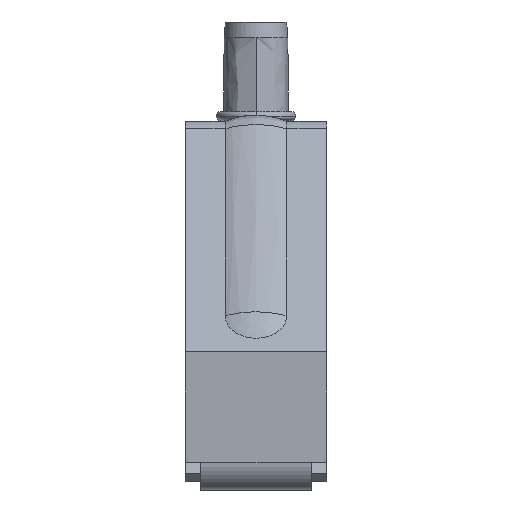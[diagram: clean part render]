
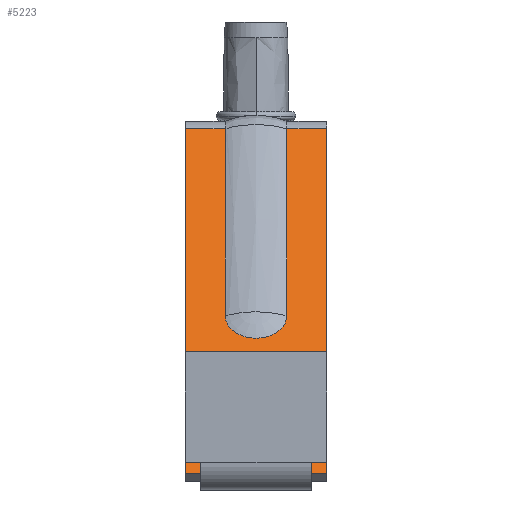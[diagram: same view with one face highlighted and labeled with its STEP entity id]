
A CAD part, left-side view. The second image highlights one B-rep face of the part: STEP entity #5223.
In plain terms, the highlighted planar face has unit normal (-0.719, 0, 0.695).
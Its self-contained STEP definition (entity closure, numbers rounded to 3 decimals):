
#2714=B_SPLINE_CURVE_WITH_KNOTS('',1,(#45325,#45326),.UNSPECIFIED.,.F.,
 .F.,(2,2),(-42.392,0.),.UNSPECIFIED.);
#2715=B_SPLINE_CURVE_WITH_KNOTS('',1,(#45327,#45328),.UNSPECIFIED.,.F.,
 .F.,(2,2),(0.,42.392),.UNSPECIFIED.);
#3327=PLANE('',#21495);
#5223=ADVANCED_FACE('',(#6504),#3327,.T.);
#6504=FACE_OUTER_BOUND('',#7789,.T.);
#7789=EDGE_LOOP('',(#14331,#14332,#14333,#14334,#14335,#14336,#14337,#14338,
#14339,#14340));
#14331=ORIENTED_EDGE('',*,*,#17789,.F.);
#14332=ORIENTED_EDGE('',*,*,#17791,.T.);
#14333=ORIENTED_EDGE('',*,*,#17930,.T.);
#14334=ORIENTED_EDGE('',*,*,#17896,.T.);
#14335=ORIENTED_EDGE('',*,*,#17924,.T.);
#14336=ORIENTED_EDGE('',*,*,#17792,.F.);
#14337=ORIENTED_EDGE('',*,*,#17834,.F.);
#14338=ORIENTED_EDGE('',*,*,#17782,.F.);
#14339=ORIENTED_EDGE('',*,*,#17780,.T.);
#14340=ORIENTED_EDGE('',*,*,#17783,.F.);
#17780=EDGE_CURVE('',#20568,#20567,#18457,.T.);
#17782=EDGE_CURVE('',#20568,#20564,#2714,.T.);
#17783=EDGE_CURVE('',#20563,#20567,#2715,.T.);
#17789=EDGE_CURVE('',#20574,#20563,#18463,.T.);
#17791=EDGE_CURVE('',#20574,#20576,#18465,.T.);
#17792=EDGE_CURVE('',#20575,#20577,#18466,.T.);
#17834=EDGE_CURVE('',#20564,#20575,#18508,.T.);
#17896=EDGE_CURVE('',#20648,#20642,#18554,.T.);
#17924=EDGE_CURVE('',#20642,#20577,#18572,.T.);
#17930=EDGE_CURVE('',#20576,#20648,#18574,.T.);
#18457=(
BOUNDED_CURVE()
B_SPLINE_CURVE(2,(#45316,#45317,#45318,#45319,#45320),.UNSPECIFIED.,.F.,
 .F.)
B_SPLINE_CURVE_WITH_KNOTS((3,2,3),(-15.708,-7.854,
0.),.UNSPECIFIED.)
CURVE()
GEOMETRIC_REPRESENTATION_ITEM()
RATIONAL_B_SPLINE_CURVE((1.,0.707,1.,0.707,1.))
REPRESENTATION_ITEM('')
);
#18463=(
BOUNDED_CURVE()
B_SPLINE_CURVE(1,(#45342,#45343),.UNSPECIFIED.,.F.,.F.)
B_SPLINE_CURVE_WITH_KNOTS((2,2),(0.,6.5),.UNSPECIFIED.)
CURVE()
GEOMETRIC_REPRESENTATION_ITEM()
RATIONAL_B_SPLINE_CURVE((1.,1.))
REPRESENTATION_ITEM('')
);
#18465=(
BOUNDED_CURVE()
B_SPLINE_CURVE(2,(#45347,#45348,#45349),.UNSPECIFIED.,.F.,.F.)
B_SPLINE_CURVE_WITH_KNOTS((3,3),(-499.242,-421.31),
 .UNSPECIFIED.)
CURVE()
GEOMETRIC_REPRESENTATION_ITEM()
RATIONAL_B_SPLINE_CURVE((1.,1.,1.))
REPRESENTATION_ITEM('')
);
#18466=(
BOUNDED_CURVE()
B_SPLINE_CURVE(2,(#45350,#45351,#45352),.UNSPECIFIED.,.F.,.F.)
B_SPLINE_CURVE_WITH_KNOTS((3,3),(-499.242,-421.31),
 .UNSPECIFIED.)
CURVE()
GEOMETRIC_REPRESENTATION_ITEM()
RATIONAL_B_SPLINE_CURVE((1.,1.,1.))
REPRESENTATION_ITEM('')
);
#18508=(
BOUNDED_CURVE()
B_SPLINE_CURVE(1,(#45461,#45462),.UNSPECIFIED.,.F.,.F.)
B_SPLINE_CURVE_WITH_KNOTS((2,2),(16.5,23.),.UNSPECIFIED.)
CURVE()
GEOMETRIC_REPRESENTATION_ITEM()
RATIONAL_B_SPLINE_CURVE((1.,1.))
REPRESENTATION_ITEM('')
);
#18554=(
BOUNDED_CURVE()
B_SPLINE_CURVE(1,(#45667,#45668),.UNSPECIFIED.,.F.,.F.)
B_SPLINE_CURVE_WITH_KNOTS((2,2),(2.5,20.5),.UNSPECIFIED.)
CURVE()
GEOMETRIC_REPRESENTATION_ITEM()
RATIONAL_B_SPLINE_CURVE((1.,1.))
REPRESENTATION_ITEM('')
);
#18572=(
BOUNDED_CURVE()
B_SPLINE_CURVE(1,(#45735,#45736),.UNSPECIFIED.,.F.,.F.)
B_SPLINE_CURVE_WITH_KNOTS((2,2),(20.5,23.),.UNSPECIFIED.)
CURVE()
GEOMETRIC_REPRESENTATION_ITEM()
RATIONAL_B_SPLINE_CURVE((1.,1.))
REPRESENTATION_ITEM('')
);
#18574=(
BOUNDED_CURVE()
B_SPLINE_CURVE(1,(#45747,#45748),.UNSPECIFIED.,.F.,.F.)
B_SPLINE_CURVE_WITH_KNOTS((2,2),(0.,2.5),.UNSPECIFIED.)
CURVE()
GEOMETRIC_REPRESENTATION_ITEM()
RATIONAL_B_SPLINE_CURVE((1.,1.))
REPRESENTATION_ITEM('')
);
#20563=VERTEX_POINT('',#45076);
#20564=VERTEX_POINT('',#45077);
#20567=VERTEX_POINT('',#45080);
#20568=VERTEX_POINT('',#45081);
#20574=VERTEX_POINT('',#45087);
#20575=VERTEX_POINT('',#45088);
#20576=VERTEX_POINT('',#45089);
#20577=VERTEX_POINT('',#45090);
#20642=VERTEX_POINT('',#45155);
#20648=VERTEX_POINT('',#45161);
#21495=AXIS2_PLACEMENT_3D('',#44764,#22246,$);
#22246=DIRECTION('',(-0.719,0.,0.695));
#44764=CARTESIAN_POINT('',(-18.995,11.5,-1.219));
#45076=CARTESIAN_POINT('',(-18.995,5.,-1.219));
#45077=CARTESIAN_POINT('',(-18.995,-5.,-1.219));
#45080=CARTESIAN_POINT('',(-48.466,5.,-31.691));
#45081=CARTESIAN_POINT('',(-48.466,-5.,-31.691));
#45087=CARTESIAN_POINT('',(-18.995,11.5,-1.219));
#45088=CARTESIAN_POINT('',(-18.995,-11.5,-1.219));
#45089=CARTESIAN_POINT('',(-73.173,11.5,-57.238));
#45090=CARTESIAN_POINT('',(-73.173,-11.5,-57.238));
#45155=CARTESIAN_POINT('',(-73.173,-9.,-57.238));
#45161=CARTESIAN_POINT('',(-73.173,9.,-57.238));
#45316=CARTESIAN_POINT('',(-48.466,-5.,-31.691));
#45317=CARTESIAN_POINT('',(-51.942,-5.,-35.285));
#45318=CARTESIAN_POINT('',(-51.942,0.,-35.285));
#45319=CARTESIAN_POINT('',(-51.942,5.,-35.285));
#45320=CARTESIAN_POINT('',(-48.466,5.,-31.691));
#45325=CARTESIAN_POINT('',(-48.466,-5.,-31.691));
#45326=CARTESIAN_POINT('',(-18.995,-5.,-1.219));
#45327=CARTESIAN_POINT('',(-18.995,5.,-1.219));
#45328=CARTESIAN_POINT('',(-48.466,5.,-31.691));
#45342=CARTESIAN_POINT('',(-18.995,11.5,-1.219));
#45343=CARTESIAN_POINT('',(-18.995,5.,-1.219));
#45347=CARTESIAN_POINT('',(-18.995,11.5,-1.219));
#45348=CARTESIAN_POINT('',(-46.084,11.5,-29.229));
#45349=CARTESIAN_POINT('',(-73.173,11.5,-57.238));
#45350=CARTESIAN_POINT('',(-18.995,-11.5,-1.219));
#45351=CARTESIAN_POINT('',(-46.084,-11.5,-29.229));
#45352=CARTESIAN_POINT('',(-73.173,-11.5,-57.238));
#45461=CARTESIAN_POINT('',(-18.995,-5.,-1.219));
#45462=CARTESIAN_POINT('',(-18.995,-11.5,-1.219));
#45667=CARTESIAN_POINT('',(-73.173,9.,-57.238));
#45668=CARTESIAN_POINT('',(-73.173,-9.,-57.238));
#45735=CARTESIAN_POINT('',(-73.173,-9.,-57.238));
#45736=CARTESIAN_POINT('',(-73.173,-11.5,-57.238));
#45747=CARTESIAN_POINT('',(-73.173,11.5,-57.238));
#45748=CARTESIAN_POINT('',(-73.173,9.,-57.238));
